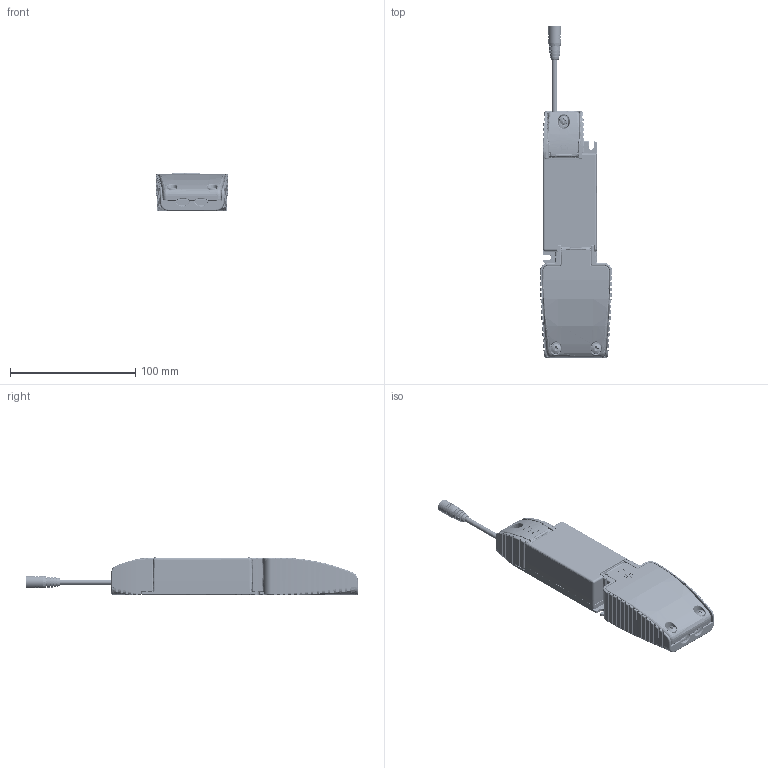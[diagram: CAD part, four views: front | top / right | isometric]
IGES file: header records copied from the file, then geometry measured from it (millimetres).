
Start section: SolidWorks IGES file using analytic representation for surfaces
Global section: file name: D:\Customer drawings\IT DALI 30W 220-240 700 CS CCT LJ_D30091398_D30091739_D30091741_D30091399_D30091742_D30091743_Andy Xu\9C1-4554632-EN-00.IGS; native system: SolidWorks 2023; preprocessor: SolidWorks 2023; author: b.ye; date: 260121.111237; units: millimetre
Bounding box: 57.45 x 264.56 x 30.03 mm (x, y, z)
Surface area: 106559.6 mm2 (no closed solid volume)
Topology: 0 solids, 0 shells, 8192 faces, 71697 edges, 71562 vertices
Faces by surface type: bspline 5772, revolution 2420
